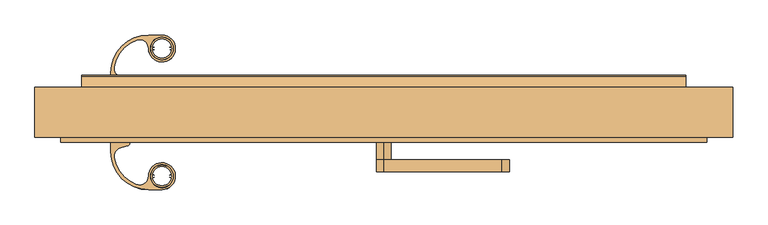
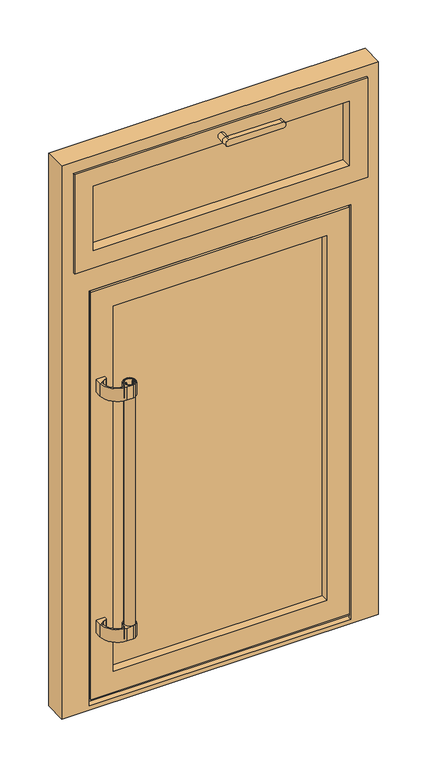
"""IFC4 building model written with IfcOpenShell, lengths in millimetres: door geometry, Jednokrilna vrata s ventusom : Jednokrilna vrata s ventusom."""

from ifc_helpers import new_model, si_unit, point, frame, frame_2d, origin, place, context, project, spatial, polyline, circle_curve, trimmed, segment, composite_curve, outline, extrude, faceted_brep, source, transform, mapped, element, save
from ifc_brep_helpers import plane_surface, cylinder_surface, revolved_surface, advanced_brep


def door_61d21fcc(model_context):
    return source(origin(), model_context, "Body", "SolidModel", [
        advanced_brep(
        [(0.0, -83.000108, 2097.9939147), (200.0, -83.000108, 2097.9939147), (200.0, -83.000108, 2122.9939147), (0.0, -83.000108, 2122.9939147), (0.0, -63.000108, 2122.9939147), (200.0, -63.000108, 2122.9939147), (200.0, -63.000108, 2097.9939147), (0.0, -63.000108, 2097.9939147), (0.0, -33.000108, 2097.9939147), (0.0, -33.000108, 2122.9939147)],
        [
            (0, 1),
            (1, 2, circle_curve(frame((200.0, -83.000108, 2110.4939147), z_axis=(0.0, -1.0, 0.0), x_axis=(0.0, 0.0, 1.0)), 12.5)),
            (2, 3),
            (3, 0, circle_curve(frame((0.0, -83.000108, 2110.4939147), z_axis=(0.0, -1.0, 0.0), x_axis=(0.0, 0.0, 1.0)), 12.5)),
            (4, 5),
            (5, 6, circle_curve(frame((200.0, -63.000108, 2110.4939147), z_axis=(0.0, 1.0, 0.0), x_axis=(0.0, 0.0, 1.0)), 12.5)),
            (6, 7),
            (7, 4, circle_curve(frame((0.0, -63.000108, 2110.4939147), z_axis=(0.0, -1.0, 0.0), x_axis=(0.0, 0.0, 1.0)), 12.5)),
            (0, 7),
            (6, 1),
            (5, 2),
            (4, 3),
            (4, 7, circle_curve(frame((0.0, -63.000108, 2110.4939147), z_axis=(0.0, -1.0, 0.0), x_axis=(0.0, 0.0, 1.0)), 12.5)),
            (8, 9, circle_curve(frame((0.0, -33.000108, 2110.4939147), z_axis=(0.0, 1.0, 0.0), x_axis=(0.0, 0.0, 1.0)), 12.5)),
            (9, 8, circle_curve(frame((0.0, -33.000108, 2110.4939147), z_axis=(0.0, 1.0, 0.0), x_axis=(0.0, 0.0, 1.0)), 12.5)),
            (9, 4),
            (7, 8),
        ],
        [
            plane_surface(frame((0.0, -83.000108, 2097.9939147), z_axis=(0.0, -1.0, 0.0), x_axis=(1.0, 0.0, 0.0))),
            plane_surface(frame((0.0, -63.000108, 2097.9939147), z_axis=(0.0, 1.0, 0.0), x_axis=(-1.0, 0.0, 0.0))),
            plane_surface(frame((0.0, -83.000108, 2097.9939147), z_axis=(0.0, 0.0, -1.0), x_axis=(0.0, 1.0, 0.0))),
            cylinder_surface(frame((200.0, -63.000108, 2110.4939147), z_axis=(0.0, -1.0, 0.0), x_axis=(0.0, 0.0, 1.0)), 12.5),
            plane_surface(frame((200.0, -83.000108, 2122.9939147), z_axis=(0.0, 0.0, 1.0), x_axis=(0.0, 1.0, 0.0))),
            cylinder_surface(frame((0.0, -63.000108, 2110.4939147), z_axis=(0.0, -1.0, 0.0), x_axis=(0.0, 0.0, 1.0)), 12.5),
            plane_surface(frame((0.0, -33.000108, 2122.9939147), z_axis=(0.0, 1.0, 0.0), x_axis=(1.0, 0.0, 0.0))),
            cylinder_surface(frame((0.0, -33.000108, 2110.4939147), z_axis=(0.0, -1.0, 0.0), x_axis=(0.0, 0.0, 1.0)), 12.5),
        ],
        [
            (0, [[1, 2, 3, 4]]),
            (1, [[5, 6, 7, 8]]),
            (2, [[-1, 9, -7, 10]]),
            (3, [[-2, -10, -6, 11]]),
            (4, [[-3, -11, -5, 12]]),
            (5, [[-4, -12, 13, -9]]),
            (6, [[14, 15]]),
            (7, [[-15, 16, -8, 17]]),
            (7, [[-14, -17, -13, -16]]),
        ],
    ),
        advanced_brep(
        [(528.9999515, 51.5034493, 2128.9999515), (528.9999515, -25.0, 2128.9999515), (528.9999515, -25.0, 1771.5000485), (528.9999515, 51.5034493, 1771.5000485), (546.499939, -25.0, 2146.499939), (546.499939, -25.0, 1754.000061), (-546.499939, -25.0, 1754.000061), (-546.499939, -25.0, 2146.499939), (-528.9999515, -25.0, 2128.9999515), (-528.9999515, -25.0, 1771.5000485), (-528.9999515, 51.5034493, 1771.5000485), (-528.9999515, 51.5034493, 2128.9999515), (510.4939147, 51.5034493, 1790.0060853), (510.4939147, 51.5034493, 2110.4939147), (-510.4939147, 51.5034493, 2110.4939147), (-510.4939147, 51.5034493, 1790.0060853), (510.4939147, 60.0034493, 2110.4939147), (510.4939147, 60.0034493, 1790.0060853), (510.4939147, 61.4138439, 1790.0111266), (510.4939147, 61.4034433, 1792.9208963), (510.4939147, 65.4034557, 1799.8492482), (510.4939147, 77.4034496, 1792.9209945), (510.4939147, 78.5504065, 1790.0060853), (510.4939147, 79.9811113, 1790.0060853), (510.4939147, 78.0034193, 1794.1911593), (510.4939147, 61.0034803, 1804.0061013), (510.4939147, 60.0034493, 1804.0061013), (-510.4939147, 60.0034493, 1790.0060853), (-510.4939147, 61.4138439, 1790.0111266), (-510.4939147, 61.4034433, 1792.9208963), (-510.4939147, 65.4034557, 1799.8492482), (-510.4939147, 77.4034496, 1792.9209945), (-510.4939147, 78.5504065, 1790.0060853), (-510.4939147, 79.9811113, 1790.0060853), (-510.4939147, 78.0034193, 1794.1911593), (-510.4939147, 61.0034803, 1804.0061013), (-510.4939147, 60.0034493, 1804.0061013), (-510.4939147, 60.0034493, 2110.4939147), (478.0736554, 60.0034493, 1822.4263446), (478.0736554, 60.0034493, 2078.0736554), (-478.0736554, 60.0034493, 2078.0736554), (-478.0736554, 60.0034493, 1822.4263446), (478.0736554, 52.5067387, 2078.0736554), (478.0736554, 52.5067387, 1822.4263446), (-478.0736554, 52.5067387, 1822.4263446), (490.0778178, 52.5067387, 1810.4221822), (490.0778178, 52.5067387, 2090.0778178), (-490.0778178, 52.5067387, 2090.0778178), (-490.0778178, 52.5067387, 1810.4221822), (-478.0736554, 52.5067387, 2078.0736554), (490.0778178, 8.5067387, 2090.0778178), (490.0778178, 8.5067387, 1810.4221822), (-490.0778178, 8.5067387, 1810.4221822), (-490.0778178, 8.5067387, 2090.0778178), (477.9998235, 8.5067387, 1822.5001765), (477.9998235, 8.5067387, 2077.9998235), (-477.9998235, 8.5067387, 2077.9998235), (-477.9998235, 8.5067387, 1822.5001765), (477.9998235, -33.000108, 2077.9998235), (477.9998235, -33.000108, 1822.5001765), (-477.9998235, -33.000108, 1822.5001765), (546.499939, -33.000108, 1754.000061), (546.499939, -33.000108, 2146.499939), (-546.499939, -33.000108, 2146.499939), (-546.499939, -33.000108, 1754.000061), (-477.9998235, -33.000108, 2077.9998235)],
        [
            (0, 1),
            (1, 2),
            (2, 3),
            (3, 0),
            (4, 5),
            (5, 6),
            (6, 7),
            (7, 4),
            (1, 8),
            (8, 9),
            (9, 2),
            (9, 10),
            (10, 3),
            (10, 11),
            (11, 0),
            (12, 13),
            (13, 14),
            (14, 15),
            (15, 12),
            (16, 13),
            (12, 17),
            (17, 18),
            (18, 19),
            (19, 20),
            (20, 21),
            (21, 22, circle_curve(frame((510.4939147, 75.416414, 1790.4560302), z_axis=(-1.0, 0.0, 0.0), x_axis=(0.0, 0.6275919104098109, 0.7785424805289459)), 3.1661269)),
            (22, 23),
            (23, 24, circle_curve(frame((510.4939147, 75.7113681, 1790.5482067), z_axis=(1.0, 0.0, 0.0), x_axis=(0.0, 0.9920357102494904, -0.12595693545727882)), 4.3040217)),
            (24, 25),
            (25, 26),
            (26, 16),
            (15, 27),
            (27, 17),
            (27, 28),
            (28, 18),
            (28, 29),
            (29, 19),
            (29, 30),
            (30, 20),
            (30, 31),
            (31, 21),
            (31, 32, circle_curve(frame((-510.4939147, 75.416414, 1790.4560302), z_axis=(-1.0, 0.0, 0.0), x_axis=(0.0, 0.6275919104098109, 0.7785424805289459)), 3.1661269)),
            (32, 22),
            (32, 33),
            (33, 23),
            (33, 34, circle_curve(frame((-510.4939147, 75.7113681, 1790.5482067), z_axis=(1.0, 0.0, 0.0), x_axis=(0.0, 0.9920357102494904, -0.12595693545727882)), 4.3040217)),
            (34, 24),
            (34, 35),
            (35, 25),
            (35, 36),
            (36, 26),
            (37, 16),
            (36, 37),
            (38, 39),
            (39, 40),
            (40, 41),
            (41, 38),
            (42, 39),
            (38, 43),
            (43, 42),
            (41, 44),
            (44, 43),
            (45, 46),
            (46, 47),
            (47, 48),
            (48, 45),
            (44, 49),
            (49, 42),
            (50, 46),
            (45, 51),
            (51, 50),
            (48, 52),
            (52, 51),
            (52, 53),
            (53, 50),
            (54, 55),
            (55, 56),
            (56, 57),
            (57, 54),
            (58, 55),
            (54, 59),
            (59, 58),
            (57, 60),
            (60, 59),
            (61, 62),
            (62, 63),
            (63, 64),
            (64, 61),
            (60, 65),
            (65, 58),
            (61, 5),
            (4, 62),
            (64, 6),
            (8, 11),
            (14, 37),
            (40, 49),
            (47, 53),
            (56, 65),
            (63, 7),
        ],
        [
            plane_surface(frame((528.9999515, -25.0, 2128.9999515), z_axis=(1.0, 0.0, 0.0), x_axis=(0.0, 0.0, -1.0))),
            plane_surface(frame((-546.499939, -25.0, 2146.499939), z_axis=(0.0, 1.0, 0.0), x_axis=(1.0, 0.0, 0.0))),
            plane_surface(frame((528.9999515, -25.0, 1771.5000485), z_axis=(0.0, 0.0, -1.0), x_axis=(-1.0, 0.0, 0.0))),
            plane_surface(frame((-528.9999515, 51.5034493, 2128.9999515), z_axis=(0.0, 1.0, 0.0), x_axis=(1.0, 0.0, 0.0))),
            plane_surface(frame((510.4939147, 51.5034493, 2110.4939147), z_axis=(1.0, 0.0, 0.0), x_axis=(0.0, 0.0, -1.0))),
            plane_surface(frame((510.4939147, 51.5034493, 1790.0060853), z_axis=(0.0, 0.0, -1.0), x_axis=(-1.0, 0.0, 0.0))),
            plane_surface(frame((-510.4939147, 61.4138439, 1790.0111266), z_axis=(0.0, 0.003574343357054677, -0.9999936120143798), x_axis=(1.0, 0.0, 0.0))),
            plane_surface(frame((-510.4939147, 61.4034433, 1792.9208963), z_axis=(0.0, 0.9999936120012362, 0.0035743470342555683), x_axis=(1.0, 0.0, 0.0))),
            plane_surface(frame((-510.4939147, 65.4034557, 1799.8492482), z_axis=(0.0, 0.8660293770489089, -0.49999311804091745), x_axis=(1.0, 0.0, 0.0))),
            plane_surface(frame((-510.4939147, 77.4034496, 1792.9209945), z_axis=(0.0, -0.5000029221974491, -0.8660237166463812), x_axis=(1.0, 0.0, 0.0))),
            revolved_surface(polyline([(510.49391470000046, 77.40344962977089, 1792.9209944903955), (-510.4939147, 77.40344962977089, 1792.9209944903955)]), (-510.4939147, 75.416414, 1790.4560302), (1.0000000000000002, 0.0, 0.0)),
            plane_surface(frame((-510.4939147, 79.9811113, 1790.0060853), z_axis=(0.0, 0.0, -1.0), x_axis=(1.0, 0.0, 0.0))),
            cylinder_surface(frame((-510.4939147, 75.7113681, 1790.5482067), z_axis=(-1.0, 0.0, 0.0), x_axis=(0.0, 0.9920357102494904, -0.12595693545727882)), 4.3040217),
            plane_surface(frame((-510.4939147, 61.0034803, 1804.0061013), z_axis=(0.0, 0.5000008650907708, 0.8660249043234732), x_axis=(1.0, 0.0, 0.0))),
            plane_surface(frame((-510.4939147, 60.0034493, 1804.0061013), z_axis=(0.0, 0.0, 1.0), x_axis=(1.0, 0.0, 0.0))),
            plane_surface(frame((-510.4939147, 60.0034493, 2110.4939147), z_axis=(0.0, 1.0, 0.0), x_axis=(1.0, 0.0, 0.0))),
            plane_surface(frame((478.0736554, 60.0034493, 2078.0736554), z_axis=(-1.0, 0.0, 0.0), x_axis=(0.0, 0.0, -1.0))),
            plane_surface(frame((478.0736554, 60.0034493, 1822.4263446), z_axis=(0.0, 0.0, 1.0), x_axis=(-1.0, 0.0, 0.0))),
            plane_surface(frame((-478.0736554, 52.5067387, 2078.0736554), z_axis=(0.0, -1.0, 0.0), x_axis=(1.0, 0.0, 0.0))),
            plane_surface(frame((490.0778178, 52.5067387, 2090.0778178), z_axis=(-1.0, 0.0, 0.0), x_axis=(0.0, 0.0, -1.0))),
            plane_surface(frame((490.0778178, 52.5067387, 1810.4221822), z_axis=(0.0, 0.0, 1.0), x_axis=(-1.0, 0.0, 0.0))),
            plane_surface(frame((-490.0778178, 8.5067387, 2090.0778178), z_axis=(0.0, 1.0, 0.0), x_axis=(1.0, 0.0, 0.0))),
            plane_surface(frame((477.9998235, 8.5067387, 2077.9998235), z_axis=(-1.0, 0.0, 0.0), x_axis=(0.0, 0.0, -1.0))),
            plane_surface(frame((477.9998235, 8.5067387, 1822.5001765), z_axis=(0.0, 0.0, 1.0), x_axis=(-1.0, 0.0, 0.0))),
            plane_surface(frame((-477.9998235, -33.000108, 2077.9998235), z_axis=(0.0, -1.0, 0.0), x_axis=(1.0, 0.0, 0.0))),
            plane_surface(frame((546.499939, -30.2000402, 2146.499939), z_axis=(1.0, 0.0, 0.0), x_axis=(0.0, 0.0, -1.0))),
            plane_surface(frame((546.499939, -30.2000402, 1754.000061), z_axis=(0.0, 0.0, -1.0), x_axis=(-1.0, 0.0, 0.0))),
            plane_surface(frame((-528.9999515, -25.0, 1771.5000485), z_axis=(-1.0, 0.0, 0.0), x_axis=(0.0, 0.0, 1.0))),
            plane_surface(frame((-510.4939147, 51.5034493, 1790.0060853), z_axis=(-1.0, 0.0, 0.0), x_axis=(0.0, 0.0, 1.0))),
            plane_surface(frame((-478.0736554, 60.0034493, 1822.4263446), z_axis=(1.0, 0.0, 0.0), x_axis=(0.0, 0.0, 1.0))),
            plane_surface(frame((-490.0778178, 52.5067387, 1810.4221822), z_axis=(1.0, 0.0, 0.0), x_axis=(0.0, 0.0, 1.0))),
            plane_surface(frame((-477.9998235, 8.5067387, 1822.5001765), z_axis=(1.0, 0.0, 0.0), x_axis=(0.0, 0.0, 1.0))),
            plane_surface(frame((-546.499939, -30.2000402, 1754.000061), z_axis=(-1.0, 0.0, 0.0), x_axis=(0.0, 0.0, 1.0))),
            plane_surface(frame((-528.9999515, -25.0, 2128.9999515), z_axis=(0.0, 0.0, 1.0), x_axis=(1.0, 0.0, 0.0))),
            plane_surface(frame((-510.4939147, 51.5034493, 2110.4939147), z_axis=(0.0, 0.0, 1.0), x_axis=(1.0, 0.0, 0.0))),
            plane_surface(frame((-478.0736554, 60.0034493, 2078.0736554), z_axis=(0.0, 0.0, -1.0), x_axis=(1.0, 0.0, 0.0))),
            plane_surface(frame((-490.0778178, 52.5067387, 2090.0778178), z_axis=(0.0, 0.0, -1.0), x_axis=(1.0, 0.0, 0.0))),
            plane_surface(frame((-477.9998235, 8.5067387, 2077.9998235), z_axis=(0.0, 0.0, -1.0), x_axis=(1.0, 0.0, 0.0))),
            plane_surface(frame((-546.499939, -30.2000402, 2146.499939), z_axis=(0.0, 0.0, 1.0), x_axis=(1.0, 0.0, 0.0))),
        ],
        [
            (0, [[1, 2, 3, 4]]),
            (1, [[5, 6, 7, 8], [-2, 9, 10, 11]]),
            (2, [[-3, -11, 12, 13]]),
            (3, [[-4, -13, 14, 15], [16, 17, 18, 19]]),
            (4, [[20, -16, 21, 22, 23, 24, 25, 26, 27, 28, 29, 30, 31]]),
            (5, [[-21, -19, 32, 33]]),
            (6, [[34, 35, -22, -33]]),
            (7, [[36, 37, -23, -35]]),
            (8, [[38, 39, -24, -37]]),
            (9, [[40, 41, -25, -39]]),
            (10, [[42, 43, -26, -41]]),
            (11, [[44, 45, -27, -43]]),
            (12, [[46, 47, -28, -45]]),
            (13, [[48, 49, -29, -47]]),
            (14, [[50, 51, -30, -49]]),
            (15, [[52, -31, -51, 53], [54, 55, 56, 57]]),
            (16, [[58, -54, 59, 60]]),
            (17, [[-59, -57, 61, 62]]),
            (18, [[63, 64, 65, 66], [-60, -62, 67, 68]]),
            (19, [[69, -63, 70, 71]]),
            (20, [[-70, -66, 72, 73]]),
            (21, [[-71, -73, 74, 75], [76, 77, 78, 79]]),
            (22, [[80, -76, 81, 82]]),
            (23, [[-81, -79, 83, 84]]),
            (24, [[85, 86, 87, 88], [-82, -84, 89, 90]]),
            (25, [[-85, 91, -5, 92]]),
            (26, [[-91, -88, 93, -6]]),
            (27, [[-12, -10, 94, -14]]),
            (28, [[-32, -18, 95, -53, -50, -48, -46, -44, -42, -40, -38, -36, -34]]),
            (29, [[-61, -56, 96, -67]]),
            (30, [[-72, -65, 97, -74]]),
            (31, [[-83, -78, 98, -89]]),
            (32, [[-93, -87, 99, -7]]),
            (33, [[-1, -15, -94, -9]]),
            (34, [[-20, -52, -95, -17]]),
            (35, [[-58, -68, -96, -55]]),
            (36, [[-69, -75, -97, -64]]),
            (37, [[-80, -90, -98, -77]]),
            (38, [[-92, -8, -99, -86]]),
        ],
    ),
        extrude(outline(polyline([(490.0778178, 8.5067387), (-490.0778178, 8.5067387), (-490.0778178, 51.5034493), (490.0778178, 51.5034493), (490.0778178, 8.5067387)])), frame((0.0, 0.0, 1810.4221822), z_axis=(0.0, 0.0, 1.0), x_axis=(1.0, 0.0, 0.0)), (0.0, 0.0, 1.0), 279.6556356),
        extrude(outline(composite_curve([segment(trimmed(circle_curve(frame_2d((-375.1634655, -90.446524)), 19.0), [point((-394.1634655, -90.446524))], [point((-356.1634655, -90.446524))], False, "CARTESIAN"), True, "CONTINUOUS"), segment(trimmed(circle_curve(frame_2d((-375.1634655, -90.446524)), 19.0), [point((-356.1634655, -90.446524))], [point((-394.1634655, -90.446524))], False, "CARTESIAN"), True, "CONTINUOUS")], self_intersect=False), holes=[composite_curve([segment(polyline([(-388.52745, -91.5425395), (-387.3808487, -91.5425395), (-387.3808487, -92.5136888)]), True, "CONTINUOUS"), segment(trimmed(circle_curve(frame_2d((-389.6234655, -90.446524)), 3.05), [point((-387.3808487, -92.5136888))], [point((-389.6234655, -93.496524))], False, "CARTESIAN"), True, "CONTINUOUS"), segment(polyline([(-389.6234655, -93.496524), (-390.8700724, -93.496524)]), True, "CONTINUOUS"), segment(trimmed(circle_curve(frame_2d((-375.1634655, -90.446524)), 16.0), [point((-390.8700724, -93.496524))], [point((-359.4568586, -93.496524))], True, "CARTESIAN"), True, "CONTINUOUS"), segment(polyline([(-359.4568586, -93.496524), (-360.6634655, -93.496524)]), True, "CONTINUOUS"), segment(trimmed(circle_curve(frame_2d((-360.6634655, -90.446524)), 3.05), [point((-360.6634655, -93.496524))], [point((-362.9060822, -92.5136888))], False, "CARTESIAN"), True, "CONTINUOUS"), segment(polyline([(-362.9060822, -92.5136888), (-362.9060822, -91.5425395), (-361.759481, -91.5425395)]), True, "CONTINUOUS"), segment(trimmed(circle_curve(frame_2d((-360.6634655, -90.446524)), 1.55), [point((-361.759481, -91.5425395))], [point((-361.759481, -89.3505085))], True, "CARTESIAN"), True, "CONTINUOUS"), segment(polyline([(-361.759481, -89.3505085), (-362.9060822, -89.3505085), (-362.9060822, -88.3793593)]), True, "CONTINUOUS"), segment(trimmed(circle_curve(frame_2d((-360.6634655, -90.446524)), 3.05), [point((-362.9060822, -88.3793593))], [point((-360.6634655, -87.396524))], False, "CARTESIAN"), True, "CONTINUOUS"), segment(polyline([(-360.6634655, -87.396524), (-359.4568586, -87.396524)]), True, "CONTINUOUS"), segment(trimmed(circle_curve(frame_2d((-375.1634655, -90.446524)), 16.0), [point((-359.4568586, -87.396524))], [point((-390.8700724, -87.396524))], True, "CARTESIAN"), True, "CONTINUOUS"), segment(polyline([(-390.8700724, -87.396524), (-389.6234655, -87.396524)]), True, "CONTINUOUS"), segment(trimmed(circle_curve(frame_2d((-389.6234655, -90.446524)), 3.05), [point((-389.6234655, -87.396524))], [point((-387.3808487, -88.3793593))], False, "CARTESIAN"), True, "CONTINUOUS"), segment(polyline([(-387.3808487, -88.3793593), (-387.3808487, -89.3505085), (-388.52745, -89.3505085)]), True, "CONTINUOUS"), segment(trimmed(circle_curve(frame_2d((-389.6234655, -90.446524)), 1.55), [point((-388.52745, -89.3505085))], [point((-388.52745, -91.5425395))], True, "CARTESIAN"), True, "CONTINUOUS")], self_intersect=False)]), frame((0.0, 0.0, 304.78), z_axis=(0.0, 0.0, 1.0), x_axis=(1.0, 0.0, 0.0)), (0.0, 0.0, 1.0), 1000.0),
        extrude(outline(composite_curve([segment(polyline([(-456.7103426, -24.9987618), (-429.7103426, -24.9987618), (-429.7103426, -34.3006906)]), True, "CONTINUOUS"), segment(trimmed(circle_curve(frame_2d((-434.7103426, -34.3006906)), 5.0), [point((-429.7103426, -34.3006906))], [point((-433.4162474, -39.1303198))], False, "CARTESIAN"), True, "CONTINUOUS"), segment(polyline([(-433.4162474, -39.1303198), (-444.9465946, -42.219867)]), True, "CONTINUOUS"), segment(trimmed(circle_curve(frame_2d((-441.0633213, -56.7124402)), 15.0038159), [point((-444.9465946, -42.219867))], [point((-455.7781885, -59.6428279))], True, "CARTESIAN"), True, "CONTINUOUS"), segment(trimmed(circle_curve(frame_2d((-397.7826799, -49.2572222)), 58.9180773), [point((-455.7781885, -59.6428279))], [point((-418.0813193, -104.5682073))], True, "CARTESIAN"), True, "CONTINUOUS"), segment(trimmed(circle_curve(frame_2d((-412.9134571, -90.4864976)), 15.0000449), [point((-418.0813193, -104.5682073))], [point((-397.9134655, -90.446524))], True, "CARTESIAN"), True, "CONTINUOUS"), segment(trimmed(circle_curve(frame_2d((-375.2818328, -90.3862128)), 22.631713), [point((-397.9134655, -90.446524))], [point((-388.53558, -72.0413874))], False, "CARTESIAN"), True, "CONTINUOUS"), segment(trimmed(circle_curve(frame_2d((-375.168524, -90.5430463)), 22.8251959), [point((-388.53558, -72.0413874))], [point((-359.9407442, -73.5399792))], False, "CARTESIAN"), True, "CONTINUOUS"), segment(trimmed(circle_curve(frame_2d((-375.0857282, -90.450598)), 22.7010919), [point((-359.9407442, -73.5399792))], [point((-361.791351, -108.8516606))], False, "CARTESIAN"), True, "CONTINUOUS"), segment(trimmed(circle_curve(frame_2d((-375.2276099, -90.2542163)), 22.9433648), [point((-361.791351, -108.8516606))], [point((-374.8091647, -113.193765))], False, "CARTESIAN"), True, "CONTINUOUS"), segment(polyline([(-374.8091647, -113.193765), (-397.7131016, -113.193765)]), True, "CONTINUOUS"), segment(trimmed(circle_curve(frame_2d((-397.7131016, -49.196524)), 63.997241), [point((-397.7131016, -113.193765))], [point((-461.7103426, -49.196524))], False, "CARTESIAN"), True, "CONTINUOUS"), segment(polyline([(-461.7103426, -49.196524), (-461.7103426, -24.9987618), (-456.7103426, -24.9987618)]), True, "CONTINUOUS")], self_intersect=False), holes=[composite_curve([segment(trimmed(circle_curve(frame_2d((-375.1634655, -90.446524)), 19.25), [point((-394.4134655, -90.446524))], [point((-355.9134655, -90.446524))], True, "CARTESIAN"), True, "CONTINUOUS"), segment(trimmed(circle_curve(frame_2d((-375.1634655, -90.446524)), 19.25), [point((-355.9134655, -90.446524))], [point((-394.4134655, -90.446524))], True, "CARTESIAN"), True, "CONTINUOUS")], self_intersect=False)]), frame((0.0, 0.0, 1254.78), z_axis=(0.0, 0.0, 1.0), x_axis=(1.0, 0.0, 0.0)), (0.0, 0.0, 1.0), 50.0),
        extrude(outline(composite_curve([segment(polyline([(-456.7103426, -24.9987618), (-429.7103426, -24.9987618), (-429.7103426, -34.3006906)]), True, "CONTINUOUS"), segment(trimmed(circle_curve(frame_2d((-434.7103426, -34.3006906)), 5.0), [point((-429.7103426, -34.3006906))], [point((-433.4162474, -39.1303198))], False, "CARTESIAN"), True, "CONTINUOUS"), segment(polyline([(-433.4162474, -39.1303198), (-444.9465946, -42.219867)]), True, "CONTINUOUS"), segment(trimmed(circle_curve(frame_2d((-441.0633213, -56.7124402)), 15.0038159), [point((-444.9465946, -42.219867))], [point((-455.7781885, -59.6428279))], True, "CARTESIAN"), True, "CONTINUOUS"), segment(trimmed(circle_curve(frame_2d((-397.7826799, -49.2572222)), 58.9180773), [point((-455.7781885, -59.6428279))], [point((-418.0813193, -104.5682073))], True, "CARTESIAN"), True, "CONTINUOUS"), segment(trimmed(circle_curve(frame_2d((-412.9134571, -90.4864976)), 15.0000449), [point((-418.0813193, -104.5682073))], [point((-397.9134655, -90.446524))], True, "CARTESIAN"), True, "CONTINUOUS"), segment(trimmed(circle_curve(frame_2d((-375.2818328, -90.3862128)), 22.631713), [point((-397.9134655, -90.446524))], [point((-388.53558, -72.0413874))], False, "CARTESIAN"), True, "CONTINUOUS"), segment(trimmed(circle_curve(frame_2d((-375.168524, -90.5430463)), 22.8251959), [point((-388.53558, -72.0413874))], [point((-359.9407442, -73.5399792))], False, "CARTESIAN"), True, "CONTINUOUS"), segment(trimmed(circle_curve(frame_2d((-375.0857282, -90.450598)), 22.7010919), [point((-359.9407442, -73.5399792))], [point((-361.791351, -108.8516606))], False, "CARTESIAN"), True, "CONTINUOUS"), segment(trimmed(circle_curve(frame_2d((-375.2276099, -90.2542163)), 22.9433648), [point((-361.791351, -108.8516606))], [point((-374.8091647, -113.193765))], False, "CARTESIAN"), True, "CONTINUOUS"), segment(polyline([(-374.8091647, -113.193765), (-397.7131016, -113.193765)]), True, "CONTINUOUS"), segment(trimmed(circle_curve(frame_2d((-397.7131016, -49.196524)), 63.997241), [point((-397.7131016, -113.193765))], [point((-461.7103426, -49.196524))], False, "CARTESIAN"), True, "CONTINUOUS"), segment(polyline([(-461.7103426, -49.196524), (-461.7103426, -24.9987618), (-456.7103426, -24.9987618)]), True, "CONTINUOUS")], self_intersect=False), holes=[composite_curve([segment(trimmed(circle_curve(frame_2d((-375.1634655, -90.446524)), 19.25), [point((-394.4134655, -90.446524))], [point((-355.9134655, -90.446524))], True, "CARTESIAN"), True, "CONTINUOUS"), segment(trimmed(circle_curve(frame_2d((-375.1634655, -90.446524)), 19.25), [point((-355.9134655, -90.446524))], [point((-394.4134655, -90.446524))], True, "CARTESIAN"), True, "CONTINUOUS")], self_intersect=False)]), frame((0.0, 0.0, 304.78), z_axis=(0.0, 0.0, 1.0), x_axis=(1.0, 0.0, 0.0)), (0.0, 0.0, 1.0), 50.0),
        extrude(outline(composite_curve([segment(trimmed(circle_curve(frame_2d((-375.1634655, 125.4515636)), 19.0), [point((-394.1634655, 125.4515636))], [point((-356.1634655, 125.4515636))], False, "CARTESIAN"), True, "CONTINUOUS"), segment(trimmed(circle_curve(frame_2d((-375.1634655, 125.4515636)), 19.0), [point((-356.1634655, 125.4515636))], [point((-394.1634655, 125.4515636))], False, "CARTESIAN"), True, "CONTINUOUS")], self_intersect=False), holes=[composite_curve([segment(trimmed(circle_curve(frame_2d((-389.6234655, 125.4515636)), 1.55), [point((-388.52745, 126.5475791))], [point((-388.52745, 124.355548))], True, "CARTESIAN"), True, "CONTINUOUS"), segment(polyline([(-388.52745, 124.355548), (-387.3808487, 124.355548), (-387.3808487, 123.3843988)]), True, "CONTINUOUS"), segment(trimmed(circle_curve(frame_2d((-389.6234655, 125.4515636)), 3.05), [point((-387.3808487, 123.3843988))], [point((-389.6234655, 122.4015636))], False, "CARTESIAN"), True, "CONTINUOUS"), segment(polyline([(-389.6234655, 122.4015636), (-390.8700724, 122.4015636)]), True, "CONTINUOUS"), segment(trimmed(circle_curve(frame_2d((-375.1634655, 125.4515636)), 16.0), [point((-390.8700724, 122.4015636))], [point((-359.4568586, 122.4015636))], True, "CARTESIAN"), True, "CONTINUOUS"), segment(polyline([(-359.4568586, 122.4015636), (-360.6634655, 122.4015636)]), True, "CONTINUOUS"), segment(trimmed(circle_curve(frame_2d((-360.6634655, 125.4515636)), 3.05), [point((-360.6634655, 122.4015636))], [point((-362.9060822, 123.3843988))], False, "CARTESIAN"), True, "CONTINUOUS"), segment(polyline([(-362.9060822, 123.3843988), (-362.9060822, 124.355548), (-361.759481, 124.355548)]), True, "CONTINUOUS"), segment(trimmed(circle_curve(frame_2d((-360.6634655, 125.4515636)), 1.55), [point((-361.759481, 124.355548))], [point((-361.759481, 126.5475791))], True, "CARTESIAN"), True, "CONTINUOUS"), segment(polyline([(-361.759481, 126.5475791), (-362.9060822, 126.5475791), (-362.9060822, 127.5187283)]), True, "CONTINUOUS"), segment(trimmed(circle_curve(frame_2d((-360.6634655, 125.4515636)), 3.05), [point((-362.9060822, 127.5187283))], [point((-360.6634655, 128.5015636))], False, "CARTESIAN"), True, "CONTINUOUS"), segment(polyline([(-360.6634655, 128.5015636), (-359.4568586, 128.5015636)]), True, "CONTINUOUS"), segment(trimmed(circle_curve(frame_2d((-375.1634655, 125.4515636)), 16.0), [point((-359.4568586, 128.5015636))], [point((-390.8700724, 128.5015636))], True, "CARTESIAN"), True, "CONTINUOUS"), segment(polyline([(-390.8700724, 128.5015636), (-389.6234655, 128.5015636)]), True, "CONTINUOUS"), segment(trimmed(circle_curve(frame_2d((-389.6234655, 125.4515636)), 3.05), [point((-389.6234655, 128.5015636))], [point((-387.3808487, 127.5187283))], False, "CARTESIAN"), True, "CONTINUOUS"), segment(polyline([(-387.3808487, 127.5187283), (-387.3808487, 126.5475791), (-388.52745, 126.5475791)]), True, "CONTINUOUS")], self_intersect=False)]), frame((0.0, 0.0, 304.78), z_axis=(0.0, 0.0, 1.0), x_axis=(1.0, 0.0, 0.0)), (0.0, 0.0, 1.0), 1000.0),
        extrude(outline(composite_curve([segment(polyline([(-456.7103426, 60.0038013), (-461.7103426, 60.0038013), (-461.7103426, 84.2015636)]), True, "CONTINUOUS"), segment(trimmed(circle_curve(frame_2d((-397.7131016, 84.2015636)), 63.997241), [point((-461.7103426, 84.2015636))], [point((-397.7131016, 148.1988045))], False, "CARTESIAN"), True, "CONTINUOUS"), segment(polyline([(-397.7131016, 148.1988045), (-374.8091647, 148.1988045)]), True, "CONTINUOUS"), segment(trimmed(circle_curve(frame_2d((-375.2276099, 125.2592559)), 22.9433648), [point((-374.8091647, 148.1988045))], [point((-361.791351, 143.8567002))], False, "CARTESIAN"), True, "CONTINUOUS"), segment(trimmed(circle_curve(frame_2d((-375.0857282, 125.4556376)), 22.7010919), [point((-361.791351, 143.8567002))], [point((-359.9407442, 108.5450188))], False, "CARTESIAN"), True, "CONTINUOUS"), segment(trimmed(circle_curve(frame_2d((-375.168524, 125.5480858)), 22.8251959), [point((-359.9407442, 108.5450188))], [point((-388.53558, 107.0464269))], False, "CARTESIAN"), True, "CONTINUOUS"), segment(trimmed(circle_curve(frame_2d((-375.2818328, 125.3912524)), 22.631713), [point((-388.53558, 107.0464269))], [point((-397.9134655, 125.4515636))], False, "CARTESIAN"), True, "CONTINUOUS"), segment(trimmed(circle_curve(frame_2d((-412.9134571, 125.4915371)), 15.0000449), [point((-397.9134655, 125.4515636))], [point((-418.0813193, 139.5732468))], True, "CARTESIAN"), True, "CONTINUOUS"), segment(trimmed(circle_curve(frame_2d((-397.7826799, 84.2622618)), 58.9180773), [point((-418.0813193, 139.5732468))], [point((-455.7781885, 94.6478674))], True, "CARTESIAN"), True, "CONTINUOUS"), segment(trimmed(circle_curve(frame_2d((-441.0633213, 91.7174798)), 15.0038159), [point((-455.7781885, 94.6478674))], [point((-444.9465946, 77.2249065))], True, "CARTESIAN"), True, "CONTINUOUS"), segment(polyline([(-444.9465946, 77.2249065), (-433.4162474, 74.1353593)]), True, "CONTINUOUS"), segment(trimmed(circle_curve(frame_2d((-434.7103426, 69.3057302)), 5.0), [point((-433.4162474, 74.1353593))], [point((-429.7103426, 69.3057302))], False, "CARTESIAN"), True, "CONTINUOUS"), segment(polyline([(-429.7103426, 69.3057302), (-429.7103426, 60.0038013), (-456.7103426, 60.0038013)]), True, "CONTINUOUS")], self_intersect=False), holes=[composite_curve([segment(trimmed(circle_curve(frame_2d((-375.1634655, 125.4515636)), 19.25), [point((-394.4134655, 125.4515636))], [point((-355.9134655, 125.4515636))], True, "CARTESIAN"), True, "CONTINUOUS"), segment(trimmed(circle_curve(frame_2d((-375.1634655, 125.4515636)), 19.25), [point((-355.9134655, 125.4515636))], [point((-394.4134655, 125.4515636))], True, "CARTESIAN"), True, "CONTINUOUS")], self_intersect=False)]), frame((0.0, 0.0, 1254.78), z_axis=(0.0, 0.0, 1.0), x_axis=(1.0, 0.0, 0.0)), (0.0, 0.0, 1.0), 50.0),
        extrude(outline(composite_curve([segment(polyline([(-456.7103426, 60.0038013), (-461.7103426, 60.0038013), (-461.7103426, 84.2015636)]), True, "CONTINUOUS"), segment(trimmed(circle_curve(frame_2d((-397.7131016, 84.2015636)), 63.997241), [point((-461.7103426, 84.2015636))], [point((-397.7131016, 148.1988045))], False, "CARTESIAN"), True, "CONTINUOUS"), segment(polyline([(-397.7131016, 148.1988045), (-374.8091647, 148.1988045)]), True, "CONTINUOUS"), segment(trimmed(circle_curve(frame_2d((-375.2276099, 125.2592559)), 22.9433648), [point((-374.8091647, 148.1988045))], [point((-361.791351, 143.8567002))], False, "CARTESIAN"), True, "CONTINUOUS"), segment(trimmed(circle_curve(frame_2d((-375.0857282, 125.4556376)), 22.7010919), [point((-361.791351, 143.8567002))], [point((-359.9407442, 108.5450188))], False, "CARTESIAN"), True, "CONTINUOUS"), segment(trimmed(circle_curve(frame_2d((-375.168524, 125.5480858)), 22.8251959), [point((-359.9407442, 108.5450188))], [point((-388.53558, 107.0464269))], False, "CARTESIAN"), True, "CONTINUOUS"), segment(trimmed(circle_curve(frame_2d((-375.2818328, 125.3912524)), 22.631713), [point((-388.53558, 107.0464269))], [point((-397.9134655, 125.4515636))], False, "CARTESIAN"), True, "CONTINUOUS"), segment(trimmed(circle_curve(frame_2d((-412.9134571, 125.4915371)), 15.0000449), [point((-397.9134655, 125.4515636))], [point((-418.0813193, 139.5732468))], True, "CARTESIAN"), True, "CONTINUOUS"), segment(trimmed(circle_curve(frame_2d((-397.7826799, 84.2622618)), 58.9180773), [point((-418.0813193, 139.5732468))], [point((-455.7781885, 94.6478674))], True, "CARTESIAN"), True, "CONTINUOUS"), segment(trimmed(circle_curve(frame_2d((-441.0633213, 91.7174798)), 15.0038159), [point((-455.7781885, 94.6478674))], [point((-444.9465946, 77.2249065))], True, "CARTESIAN"), True, "CONTINUOUS"), segment(polyline([(-444.9465946, 77.2249065), (-433.4162474, 74.1353593)]), True, "CONTINUOUS"), segment(trimmed(circle_curve(frame_2d((-434.7103426, 69.3057302)), 5.0), [point((-433.4162474, 74.1353593))], [point((-429.7103426, 69.3057302))], False, "CARTESIAN"), True, "CONTINUOUS"), segment(polyline([(-429.7103426, 69.3057302), (-429.7103426, 60.0038013), (-456.7103426, 60.0038013)]), True, "CONTINUOUS")], self_intersect=False), holes=[composite_curve([segment(trimmed(circle_curve(frame_2d((-375.1634655, 125.4515636)), 19.25), [point((-394.4134655, 125.4515636))], [point((-355.9134655, 125.4515636))], True, "CARTESIAN"), True, "CONTINUOUS"), segment(trimmed(circle_curve(frame_2d((-375.1634655, 125.4515636)), 19.25), [point((-355.9134655, 125.4515636))], [point((-394.4134655, 125.4515636))], True, "CARTESIAN"), True, "CONTINUOUS")], self_intersect=False)]), frame((0.0, 0.0, 304.78), z_axis=(0.0, 0.0, 1.0), x_axis=(1.0, 0.0, 0.0)), (0.0, 0.0, 1.0), 50.0),
        extrude(outline(polyline([(-413.5103426, 50.5079769), (413.5103426, 50.5079769), (413.5103426, 6.5079769), (-413.5103426, 6.5079769), (-413.5103426, 50.5079769)])), frame((0.0, 0.0, 85.3696574), z_axis=(0.0, 0.0, 1.0), x_axis=(1.0, 0.0, 0.0)), (0.0, 0.0, 1.0), 1532.0206852),
        faceted_brep([(398.5077577, 60.0038013, 1570.8877577), (398.5077577, 60.0038013, 131.8722423), (398.5077577, 50.5079769, 131.8722423), (398.5077577, 50.5079769, 1570.8877577), (510.5034819, 60.0038013, 19.8765181), (-510.5034819, 60.0038013, 19.8765181), (-510.5034819, 60.0038013, 1682.8834819), (510.5034819, 60.0038013, 1682.8834819), (-398.5077577, 60.0038013, 1570.8877577), (-398.5077577, 60.0038013, 131.8722423), (-398.5077577, 50.5079769, 131.8722423), (413.5103426, 50.5079769, 1585.8903426), (-413.5103426, 50.5079769, 1585.8903426), (-413.5103426, 50.5079769, 116.8696574), (413.5103426, 50.5079769, 116.8696574), (-398.5077577, 50.5079769, 1570.8877577), (413.5103426, 6.5079769, 1585.8903426), (413.5103426, 6.5079769, 116.8696574), (-413.5103426, 6.5079769, 116.8696574), (-413.5103426, 6.5079769, 1585.8903426), (398.5079287, 6.5079769, 1570.8879287), (-398.5079287, 6.5079769, 1570.8879287), (-398.5079287, 6.5079769, 131.8720713), (398.5079287, 6.5079769, 131.8720713), (398.5079287, -24.9987618, 1570.8879287), (398.5079287, -24.9987618, 131.8720713), (-398.5079287, -24.9987618, 131.8720713), (481.5095093, -24.9987618, 1653.8895093), (-481.5095093, -24.9987618, 1653.8895093), (-481.5095093, -24.9987618, 48.8704907), (481.5095093, -24.9987618, 48.8704907), (-398.5079287, -24.9987618, 1570.8879287), (481.5095093, -16.4986778, 1653.8895093), (481.5095093, -16.4986778, 48.8704907), (-481.5095093, -16.4986778, 48.8704907), (492.906518, -16.4986778, 1665.286518), (-492.906518, -16.4986778, 1665.286518), (-492.906518, -16.4986778, 37.473482), (492.906518, -16.4986778, 37.473482), (-481.5095093, -16.4986778, 1653.8895093), (492.906518, 51.4930383, 1665.286518), (492.906518, 51.4930383, 37.473482), (-492.906518, 51.4930383, 37.473482), (510.5034819, 51.4930383, 1682.8834819), (-510.5034819, 51.4930383, 1682.8834819), (-510.5034819, 51.4930383, 19.8765181), (510.5034819, 51.4930383, 19.8765181), (-492.906518, 51.4930383, 1665.286518)], [[[0, 1, 2, 3]], [[4, 5, 6, 7], [0, 8, 9, 1]], [[2, 1, 9, 10]], [[11, 12, 13, 14], [2, 10, 15, 3]], [[16, 11, 14, 17]], [[17, 14, 13, 18]], [[17, 18, 19, 16], [20, 21, 22, 23]], [[24, 20, 23, 25]], [[25, 23, 22, 26]], [[27, 28, 29, 30], [25, 26, 31, 24]], [[32, 27, 30, 33]], [[33, 30, 29, 34]], [[35, 36, 37, 38], [33, 34, 39, 32]], [[40, 35, 38, 41]], [[41, 38, 37, 42]], [[43, 44, 45, 46], [41, 42, 47, 40]], [[7, 43, 46, 4]], [[4, 46, 45, 5]], [[10, 9, 8, 15]], [[18, 13, 12, 19]], [[26, 22, 21, 31]], [[34, 29, 28, 39]], [[42, 37, 36, 47]], [[5, 45, 44, 6]], [[15, 8, 0, 3]], [[19, 12, 11, 16]], [[31, 21, 20, 24]], [[39, 28, 27, 32]], [[47, 36, 35, 40]], [[6, 44, 43, 7]]]),
        advanced_brep(
        [(515.5001823, 51.5068016, 10.0), (-515.5001823, 51.5068016, 10.0), (-515.5001823, 51.5068016, 1690.0), (515.5001823, 51.5068016, 1689.9958248), (-500.0959967, 51.5068016, 1674.589999), (-500.0959967, 51.5068016, 25.5020089), (500.0959967, 51.5068016, 25.5020089), (500.0959967, 51.5068016, 1674.589999), (-515.5, 60.0038013, 2115.5), (-515.5, 51.5030924, 2115.5), (-515.5, 51.5030924, 1784.9958248), (-515.5, 59.5034493, 1784.9958248), (-515.5, 59.5034493, 1689.9958248), (-515.5, 60.0023127, 10.0), (515.5001823, 60.0023127, 10.0), (590.0, 60.0023127, 10.0), (590.0, -25.0, 10.0), (-590.0, -25.0, 10.0), (-590.0, 60.0023127, 10.0), (-590.0, 60.0038013, 2190.0), (590.0, 60.0038013, 2190.0), (515.5, 60.0038013, 2115.5), (-590.0, -25.0, 2190.0), (590.0, -25.0, 2190.0), (486.5959968, -25.0, 1661.09), (486.5959968, -25.0, 25.5020089), (-486.5959968, -25.0, 25.5020089), (-486.5959968, -25.0, 1661.09), (-540.4974913, -25.0, 2140.4974913), (540.4974913, -25.0, 2140.4974913), (540.4974913, -25.0, 1759.9940703), (-540.4974913, -25.0, 1759.9940703), (486.5959968, -16.5028834, 1661.09), (486.5959968, -16.5028834, 25.5020089), (500.0959967, -16.5028834, 25.5020089), (500.0959967, 2.5534255, 25.5020089), (-500.0959967, 2.5534255, 25.5020089), (-500.0959967, -16.5028834, 25.5020089), (-486.5959968, -16.5028834, 25.5020089), (-486.5959968, -16.5028834, 1661.09), (515.5, 51.5030924, 2115.5), (515.5, 59.5034493, 1689.9958248), (515.5, 59.5034493, 1784.9958248), (515.5, 51.5030924, 1784.9958248), (-500.0959967, -16.5028834, 1674.589999), (500.0959967, -16.5028834, 1674.589999), (-500.0959967, 12.6811663, 29.5820648), (-500.0959967, 23.2837038, 29.7334181), (-500.0959967, 34.7185189, 25.5020089), (500.0959967, 34.7185189, 25.5020089), (500.0959967, 23.2837038, 29.7334181), (500.0959967, 12.6811663, 29.5820648), (540.4974913, 51.5030924, 2140.4974913), (-540.4974913, 51.5030924, 2140.4974913), (-540.4974913, 51.5030924, 1759.9940703), (540.4974913, 51.5030924, 1759.9940703)],
        [
            (0, 1),
            (1, 2),
            (2, 3),
            (3, 0),
            (4, 5),
            (5, 6),
            (6, 7),
            (7, 4),
            (8, 9),
            (9, 10),
            (10, 11),
            (11, 12),
            (12, 2),
            (1, 13),
            (13, 8),
            (0, 14),
            (14, 15),
            (15, 16),
            (16, 17),
            (17, 18),
            (18, 13),
            (19, 20),
            (20, 15),
            (14, 21),
            (21, 8),
            (18, 19),
            (17, 22),
            (22, 19),
            (23, 22),
            (16, 23),
            (24, 25),
            (25, 26),
            (26, 27),
            (27, 24),
            (28, 29),
            (29, 30),
            (30, 31),
            (31, 28),
            (20, 23),
            (24, 32),
            (32, 33),
            (33, 25),
            (33, 34),
            (34, 35),
            (35, 36),
            (36, 37),
            (37, 38),
            (38, 26),
            (39, 27),
            (38, 39),
            (40, 21),
            (3, 41),
            (41, 42),
            (42, 43),
            (43, 40),
            (32, 39),
            (37, 44),
            (44, 45),
            (45, 34),
            (4, 44),
            (36, 46),
            (46, 47, circle_curve(frame((-500.0959967, 18.1783048, 15.936763), z_axis=(-1.0, 0.0, 0.0), x_axis=(0.0, -0.3736760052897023, 0.9275592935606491)), 14.7109752)),
            (47, 48),
            (48, 5),
            (45, 7),
            (6, 49),
            (49, 50),
            (50, 51, circle_curve(frame((500.0959967, 18.1783048, 15.936763), z_axis=(1.0, 0.0, 0.0), x_axis=(0.0, -0.3736760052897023, 0.9275592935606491)), 14.7109752)),
            (51, 35),
            (51, 46),
            (50, 47),
            (49, 48),
            (52, 53),
            (53, 54),
            (54, 55),
            (55, 52),
            (9, 40),
            (43, 10),
            (53, 28),
            (31, 54),
            (52, 29),
            (55, 30),
            (42, 11),
            (41, 12),
        ],
        [
            plane_surface(frame((-505.6793966, 51.5068016, 10.0), z_axis=(0.0, 1.0, 0.0), x_axis=(0.0, 0.0, 1.0))),
            plane_surface(frame((-515.5, 60.0038013, 1690.0), z_axis=(1.0, 0.0, 0.0), x_axis=(0.0, 0.0, 1.0))),
            plane_surface(frame((-590.0, -25.0, 10.0), z_axis=(0.0, 0.0, -1.0), x_axis=(0.0, -1.0, 0.0))),
            plane_surface(frame((-590.0, 60.0038013, 1690.0), z_axis=(0.0, 1.0, 0.0), x_axis=(0.0, 0.0, 1.0))),
            plane_surface(frame((-590.0, -25.0, 1690.0), z_axis=(-1.0, 0.0, 0.0), x_axis=(0.0, 0.0, 1.0))),
            plane_surface(frame((-540.4974913, -25.0, 1690.0), z_axis=(0.0, -1.0, 0.0), x_axis=(0.0, 0.0, 1.0))),
            plane_surface(frame((590.0, -25.0, 2190.0), z_axis=(1.0, 0.0, 0.0), x_axis=(0.0, 0.0, -1.0))),
            plane_surface(frame((486.5959968, -16.5028834, 1690.0), z_axis=(-1.0, 0.0, 0.0), x_axis=(0.0, 0.0, -1.0))),
            plane_surface(frame((-590.0, -25.0, 25.5020089), z_axis=(0.0, 0.0, 1.0), x_axis=(1.0, 0.0, 0.0))),
            plane_surface(frame((-486.5959968, -16.5028834, 10.0), z_axis=(1.0, 0.0, 0.0), x_axis=(0.0, 0.0, 1.0))),
            plane_surface(frame((515.5, 60.0038013, 2115.5), z_axis=(-1.0, 0.0, 0.0), x_axis=(0.0, 0.0, -1.0))),
            plane_surface(frame((-500.0959967, -16.5028834, 10.0), z_axis=(0.0, 1.0, 0.0), x_axis=(0.0, 0.0, 1.0))),
            plane_surface(frame((-500.0959967, 51.5068016, 10.0), z_axis=(1.0, 0.0, 0.0), x_axis=(0.0, 0.0, 1.0))),
            plane_surface(frame((500.0959967, 51.5068016, 1690.0), z_axis=(-1.0, 0.0, 0.0), x_axis=(0.0, 0.0, -1.0))),
            plane_surface(frame((-590.0, 2.5534255, 25.5020089), z_axis=(0.0, -0.3736760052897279, 0.9275592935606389), x_axis=(1.0, 0.0, 0.0))),
            cylinder_surface(frame((-590.0, 18.1783048, 15.936763), z_axis=(-1.0000000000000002, 0.0, 0.0), x_axis=(0.0, -0.3736760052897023, 0.9275592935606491)), 14.7109752),
            plane_surface(frame((-590.0, 23.2837038, 29.7334181), z_axis=(0.0, 0.3470469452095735, 0.937847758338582), x_axis=(1.0, 0.0, 0.0))),
            plane_surface(frame((-590.0, 34.7185189, 25.5020089), z_axis=(0.0, 0.0, 1.0), x_axis=(1.0, 0.0, 0.0))),
            plane_surface(frame((-515.5, 51.5030924, 1690.0), z_axis=(0.0, -1.0, 0.0), x_axis=(0.0, 0.0, 1.0))),
            plane_surface(frame((-540.4974913, 51.5030924, 1690.0), z_axis=(1.0, 0.0, 0.0), x_axis=(0.0, 0.0, 1.0))),
            plane_surface(frame((-515.5, 60.0038013, 2115.5), z_axis=(0.0, 0.0, -1.0), x_axis=(1.0, 0.0, 0.0))),
            plane_surface(frame((-540.4974913, 51.5030924, 2140.4974913), z_axis=(0.0, 0.0, -1.0), x_axis=(1.0, 0.0, 0.0))),
            plane_surface(frame((-590.0, -25.0, 2190.0), z_axis=(0.0, 0.0, 1.0), x_axis=(1.0, 0.0, 0.0))),
            plane_surface(frame((540.4974913, 51.5030924, 2140.4974913), z_axis=(-1.0, 0.0, 0.0), x_axis=(0.0, 0.0, -1.0))),
            plane_surface(frame((-590.0, 51.5034493, 1784.9958248), z_axis=(0.0, 0.0, 1.0), x_axis=(1.0, 0.0, 0.0))),
            plane_surface(frame((-590.0, 59.5034493, 1784.9958248), z_axis=(0.0, 1.0, 0.0), x_axis=(1.0, 0.0, 0.0))),
            plane_surface(frame((-590.0, 59.5034493, 1689.9958248), z_axis=(0.0, 0.0, -1.0), x_axis=(1.0, 0.0, 0.0))),
            plane_surface(frame((-590.0, 51.5057208, 1674.589999), z_axis=(0.0, 0.0, -1.0), x_axis=(1.0, 0.0, 0.0))),
            plane_surface(frame((-590.0, -16.5038834, 1661.09), z_axis=(0.0, 0.0, -1.0), x_axis=(1.0, 0.0, 0.0))),
            plane_surface(frame((-590.0, -25.0, 1759.9940703), z_axis=(0.0, 0.0, 1.0), x_axis=(1.0, 0.0, 0.0))),
        ],
        [
            (0, [[1, 2, 3, 4], [5, 6, 7, 8]]),
            (1, [[9, 10, 11, 12, 13, -2, 14, 15]]),
            (2, [[16, 17, 18, 19, 20, 21, -14, -1]]),
            (3, [[22, 23, -17, 24, 25, -15, -21, 26]]),
            (4, [[-20, 27, 28, -26]]),
            (5, [[29, -27, -19, 30], [31, 32, 33, 34], [35, 36, 37, 38]]),
            (6, [[39, -30, -18, -23]]),
            (7, [[40, 41, 42, -31]]),
            (8, [[-32, -42, 43, 44, 45, 46, 47, 48]]),
            (9, [[49, -33, -48, 50]]),
            (10, [[51, -24, -16, -4, 52, 53, 54, 55]]),
            (11, [[56, -50, -47, 57, 58, 59, -43, -41]]),
            (12, [[60, -57, -46, 61, 62, 63, 64, -5]]),
            (13, [[65, -7, 66, 67, 68, 69, -44, -59]]),
            (14, [[70, -61, -45, -69]]),
            (15, [[-70, -68, 71, -62]]),
            (16, [[72, -63, -71, -67]]),
            (17, [[-6, -64, -72, -66]]),
            (18, [[73, 74, 75, 76], [77, -55, 78, -10]]),
            (19, [[79, -38, 80, -74]]),
            (20, [[-9, -25, -51, -77]]),
            (21, [[-73, 81, -35, -79]]),
            (22, [[-29, -39, -22, -28]]),
            (23, [[-81, -76, 82, -36]]),
            (24, [[-78, -54, 83, -11]]),
            (25, [[-83, -53, 84, -12]]),
            (26, [[-84, -52, -3, -13]]),
            (27, [[-8, -65, -58, -60]]),
            (28, [[-34, -49, -56, -40]]),
            (29, [[-37, -82, -75, -80]]),
        ],
    ),
    ])


if __name__ == "__main__":
    model = new_model("IFC4")
    model_context = context("Model", 3, world=origin())
    ifc_project = project(units=[si_unit("LENGTHUNIT", "METRE", prefix="MILLI")], contexts=[model_context])
    site = spatial("IfcSite", under=ifc_project)
    building = spatial("IfcBuilding", under=site)
    placement = place(None, origin())
    door_shape = door_61d21fcc(model_context)
    element("IfcDoor", 1, ObjectType="Jednokrilna vrata s ventusom : Jednokrilna vrata s ventusom", at=placement, inside=building, context=model_context, shape_type="MappedRepresentation", body=[
        mapped(door_shape, transform((0.0, 0.0, 0.0), x_axis=(1.0, 0.0, 0.0), y_axis=(0.0, 1.0, 0.0), z_axis=(0.0, 0.0, 1.0))),
    ])
    save(model, "model.ifc")
